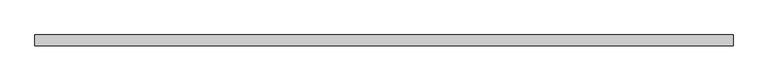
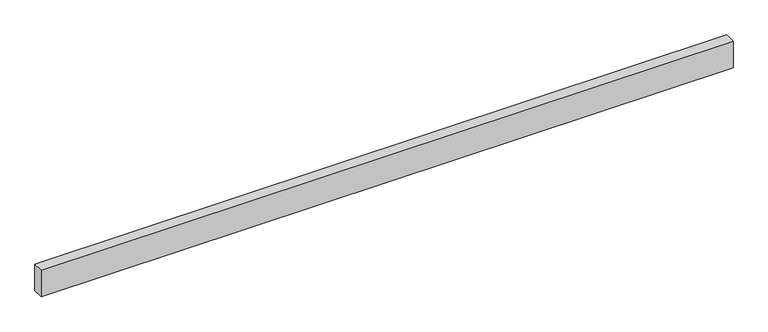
"""IFC4 building model written with IfcOpenShell, lengths in millimetres: beam geometry, Мерные пиломатериалы : 50х130."""

from ifc_helpers import new_model, si_unit, frame, origin, place, context, project, spatial, polyline, outline, extrude, source, transform, mapped, element, save


def beam_0ae76daf(model_context):
    return source(origin(), model_context, "Body", "SweptSolid", [
        extrude(outline(polyline([(1605.0, 25.0), (1605.0, -25.0), (-1605.0, -25.0), (-1605.0, 25.0), (1605.0, 25.0)])), frame((0.0, 0.0, -65.0), z_axis=(0.0, 0.0, 1.0), x_axis=(1.0, 0.0, 0.0)), (0.0, 0.0, 1.0), 130.0),
    ])


if __name__ == "__main__":
    model = new_model("IFC4")
    model_context = context("Model", 3, world=origin())
    ifc_project = project(units=[si_unit("LENGTHUNIT", "METRE", prefix="MILLI")], contexts=[model_context])
    site = spatial("IfcSite", under=ifc_project)
    building = spatial("IfcBuilding", under=site)
    placement = place(None, origin())
    beam_shape = beam_0ae76daf(model_context)
    element("IfcBeam", 1, ObjectType="Мерные пиломатериалы : 50х130", at=placement, inside=building, context=model_context, shape_type="MappedRepresentation", body=[
        mapped(beam_shape, transform((0.0, 0.0, 0.0), x_axis=(1.0, 0.0, 0.0), y_axis=(0.0, 1.0, 0.0), z_axis=(0.0, 0.0, 1.0))),
    ])
    save(model, "model.ifc")
